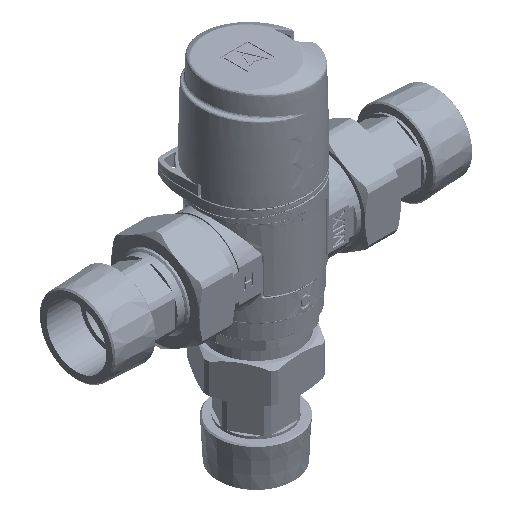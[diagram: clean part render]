
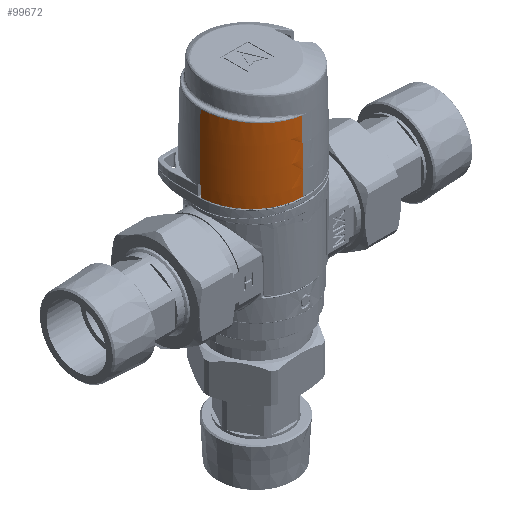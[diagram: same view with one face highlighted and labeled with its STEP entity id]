
A CAD part, isometric view. The second image highlights one B-rep face of the part: STEP entity #99672.
In plain terms, the highlighted toroidal (fillet/blend) face has major radius 1063.64 mm and minor radius 1085.24 mm.
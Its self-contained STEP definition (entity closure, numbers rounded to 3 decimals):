
#22 = CARTESIAN_POINT ( 'NONE',  ( 23.587, 0.232, 5. ) ) ;
#2909 = VERTEX_POINT ( 'NONE', #158688 ) ;
#6625 = CARTESIAN_POINT ( 'NONE',  ( 22.242, 6.189, 31.639 ) ) ;
#11304 = VERTEX_POINT ( 'NONE', #251078 ) ;
#17877 = DIRECTION ( 'NONE',  ( -1., 0., 0. ) ) ;
#23647 = EDGE_CURVE ( 'NONE', #228219, #2909, #106893, .T. ) ;
#24989 = CARTESIAN_POINT ( 'NONE',  ( 23.592, 0.6, 0.3 ) ) ;
#27306 = CARTESIAN_POINT ( 'NONE',  ( 21.542, 8.137, 31.565 ) ) ;
#28252 = B_SPLINE_CURVE_WITH_KNOTS ( 'NONE', 3,
 ( #141031, #218461, #179724, #102294 ),
 .UNSPECIFIED., .F., .F.,
 ( 4, 4 ),
 ( 0., 0.004 ),
 .UNSPECIFIED. ) ;
#37605 = CARTESIAN_POINT ( 'NONE',  ( 23.587, 0.1, 5. ) ) ;
#42678 = CARTESIAN_POINT ( 'NONE',  ( 23.581, 0.6, 4.632 ) ) ;
#43075 = DIRECTION ( 'NONE',  ( 0., -1., 0. ) ) ;
#53474 = ORIENTED_EDGE ( 'NONE', *, *, #130250, .T. ) ;
#62011 = DIRECTION ( 'NONE',  ( 0., 0., -1. ) ) ;
#62012 = EDGE_CURVE ( 'NONE', #168362, #228219, #83845, .T. ) ;
#62344 = VERTEX_POINT ( 'NONE', #129695 ) ;
#66756 = FACE_OUTER_BOUND ( 'NONE', #93055, .T. ) ;
#78785 = CARTESIAN_POINT ( 'NONE',  ( 23.585, 0.361, 4.946 ) ) ;
#81361 = ORIENTED_EDGE ( 'NONE', *, *, #153758, .F. ) ;
#83622 = CARTESIAN_POINT ( 'NONE',  ( 2., 0., 0.3 ) ) ;
#83845 = B_SPLINE_CURVE_WITH_KNOTS ( 'NONE', 3,
 ( #200142, #100745, #120132, #242574, #6625, #27306, #139464, #86544, #238725, #163911, #179437, #218170, #201430, #184602 ),
 .UNSPECIFIED., .F., .F.,
 ( 4, 1, 1, 1, 1, 1, 1, 1, 1, 1, 1, 4 ),
 ( 0.5, 0.5, 0.563, 0.594, 0.625, 0.656, 0.688, 0.75, 0.812, 0.875, 0.938, 1. ),
 .UNSPECIFIED. ) ;
#86544 = CARTESIAN_POINT ( 'NONE',  ( 19.212, 12.415, 31.318 ) ) ;
#91013 = CIRCLE ( 'NONE', #247420, 21.6 ) ;
#92037 = B_SPLINE_CURVE_WITH_KNOTS ( 'NONE', 3,
 ( #37605, #22, #78785, #181854, #42678, #105670 ),
 .UNSPECIFIED., .F., .F.,
 ( 4, 2, 4 ),
 ( 0., 0., 0.001 ),
 .UNSPECIFIED. ) ;
#93055 = EDGE_LOOP ( 'NONE', ( #81361, #116819, #53474, #153064, #143841, #113361, #205291 ) ) ;
#95734 = TOROIDAL_SURFACE ( 'NONE', #112143, -1063.644, 1085.244 ) ;
#96510 = DIRECTION ( 'NONE',  ( 0., -1., 0. ) ) ;
#99672 = ADVANCED_FACE ( 'NONE', ( #66756 ), #95734, .T. ) ;
#100745 = CARTESIAN_POINT ( 'NONE',  ( 23.13, 0.005, 31.733 ) ) ;
#102294 = CARTESIAN_POINT ( 'NONE',  ( 23.592, 0.6, 0.3 ) ) ;
#105670 = CARTESIAN_POINT ( 'NONE',  ( 23.582, 0.6, 4.5 ) ) ;
#106893 = CIRCLE ( 'NONE', #251087, 1085.244 ) ;
#112143 = AXIS2_PLACEMENT_3D ( 'NONE', #173570, #252243, #227824 ) ;
#113361 = ORIENTED_EDGE ( 'NONE', *, *, #23647, .F. ) ;
#115035 = EDGE_CURVE ( 'NONE', #200766, #2909, #91013, .T. ) ;
#116819 = ORIENTED_EDGE ( 'NONE', *, *, #183529, .F. ) ;
#118373 = CARTESIAN_POINT ( 'NONE',  ( 2., -1063.644, -0.2 ) ) ;
#120132 = CARTESIAN_POINT ( 'NONE',  ( 23.131, 1.399, 31.734 ) ) ;
#129695 = CARTESIAN_POINT ( 'NONE',  ( 23.588, 0., 5. ) ) ;
#130250 = EDGE_CURVE ( 'NONE', #11304, #155612, #92037, .T. ) ;
#139464 = CARTESIAN_POINT ( 'NONE',  ( 20.656, 10.011, 31.471 ) ) ;
#139680 = CARTESIAN_POINT ( 'NONE',  ( -1061.644, 0., -0.2 ) ) ;
#140570 = DIRECTION ( 'NONE',  ( 1., 0., 0. ) ) ;
#141031 = CARTESIAN_POINT ( 'NONE',  ( 23.582, 0.6, 4.5 ) ) ;
#143841 = ORIENTED_EDGE ( 'NONE', *, *, #115035, .T. ) ;
#146616 = CIRCLE ( 'NONE', #150851, 1085.244 ) ;
#150851 = AXIS2_PLACEMENT_3D ( 'NONE', #139680, #43075, #219640 ) ;
#151198 = CARTESIAN_POINT ( 'NONE',  ( 23.582, 0.6, 4.5 ) ) ;
#153064 = ORIENTED_EDGE ( 'NONE', *, *, #163565, .T. ) ;
#153758 = EDGE_CURVE ( 'NONE', #62344, #168362, #146616, .T. ) ;
#155612 = VERTEX_POINT ( 'NONE', #151198 ) ;
#157733 = AXIS2_PLACEMENT_3D ( 'NONE', #241119, #62011, #140570 ) ;
#158688 = CARTESIAN_POINT ( 'NONE',  ( 2., 21.6, 0.3 ) ) ;
#161798 = CIRCLE ( 'NONE', #157733, 21.588 ) ;
#162244 = DIRECTION ( 'NONE',  ( 0., 0., 1. ) ) ;
#163565 = EDGE_CURVE ( 'NONE', #155612, #200766, #28252, .T. ) ;
#163911 = CARTESIAN_POINT ( 'NONE',  ( 13.775, 17.743, 30.742 ) ) ;
#168362 = VERTEX_POINT ( 'NONE', #181490 ) ;
#173570 = CARTESIAN_POINT ( 'NONE',  ( 2., 0., -0.2 ) ) ;
#179437 = CARTESIAN_POINT ( 'NONE',  ( 10.135, 19.691, 30.356 ) ) ;
#179724 = CARTESIAN_POINT ( 'NONE',  ( 23.591, 0.6, 1.7 ) ) ;
#181490 = CARTESIAN_POINT ( 'NONE',  ( 23.13, 0., 31.733 ) ) ;
#181854 = CARTESIAN_POINT ( 'NONE',  ( 23.582, 0.546, 4.762 ) ) ;
#183529 = EDGE_CURVE ( 'NONE', #11304, #62344, #161798, .T. ) ;
#184602 = CARTESIAN_POINT ( 'NONE',  ( 2., 21.194, 29.493 ) ) ;
#200142 = CARTESIAN_POINT ( 'NONE',  ( 23.13, 0., 31.733 ) ) ;
#200766 = VERTEX_POINT ( 'NONE', #24989 ) ;
#201430 = CARTESIAN_POINT ( 'NONE',  ( 3.393, 21.19, 29.641 ) ) ;
#205291 = ORIENTED_EDGE ( 'NONE', *, *, #62012, .F. ) ;
#218170 = CARTESIAN_POINT ( 'NONE',  ( 6.124, 20.914, 29.93 ) ) ;
#218410 = CARTESIAN_POINT ( 'NONE',  ( 2., 21.194, 29.493 ) ) ;
#218461 = CARTESIAN_POINT ( 'NONE',  ( 23.588, 0.6, 3.1 ) ) ;
#219640 = DIRECTION ( 'NONE',  ( 0., 0., -1. ) ) ;
#227824 = DIRECTION ( 'NONE',  ( 1., 0., 0. ) ) ;
#228219 = VERTEX_POINT ( 'NONE', #218410 ) ;
#238725 = CARTESIAN_POINT ( 'NONE',  ( 17.027, 15.074, 31.086 ) ) ;
#240905 = DIRECTION ( 'NONE',  ( 1., 0., 0. ) ) ;
#241119 = CARTESIAN_POINT ( 'NONE',  ( 2., 0., 5. ) ) ;
#242574 = CARTESIAN_POINT ( 'NONE',  ( 22.925, 3.47, 31.712 ) ) ;
#247420 = AXIS2_PLACEMENT_3D ( 'NONE', #83622, #162244, #240905 ) ;
#251078 = CARTESIAN_POINT ( 'NONE',  ( 23.587, 0.1, 5. ) ) ;
#251087 = AXIS2_PLACEMENT_3D ( 'NONE', #118373, #17877, #96510 ) ;
#252243 = DIRECTION ( 'NONE',  ( 0., 0., 1. ) ) ;
